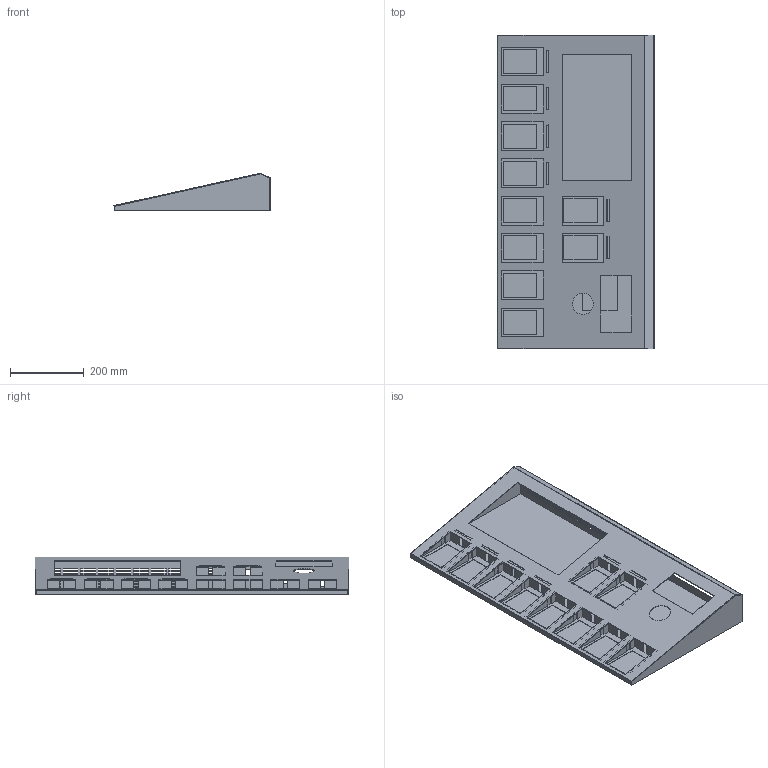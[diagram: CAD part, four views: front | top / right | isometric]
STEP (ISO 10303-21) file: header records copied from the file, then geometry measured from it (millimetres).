
FILE_DESCRIPTION(('Open CASCADE Model'),'2;1');
FILE_NAME('Open CASCADE Shape Model','2026-07-28T21:42:38',('Author'),( 'Open CASCADE'),'Open CASCADE STEP processor 7.9','Open CASCADE 7.9' ,'Unknown');
FILE_SCHEMA(('AUTOMOTIVE_DESIGN { 1 0 10303 214 1 1 1 1 }'));
Length unit declared in the file: millimetre
Products named in the file (23): Segno; bottom; front; rear; side_L; side_R; transition; faceplate; platform_0; platform_1; platform_2; platform_3; platform_4; platform_5; platform_6; platform_7; platform_8; platform_9; main_board; main_board_standoff_u107_d230; main_board_standoff_u107_d317; main_board_standoff_u192_d230; main_board_standoff_u192_d317
Assembly tree (22 placements, depth 2):
  Segno
    bottom
    front
    rear
    side_L
    side_R
    transition
    faceplate
    platform_0
    platform_1
    platform_2
    platform_3
    platform_4
    platform_5
    platform_6
    platform_7
    platform_8
    platform_9
    main_board
    main_board_standoff_u107_d230
    main_board_standoff_u107_d317
    main_board_standoff_u192_d230
    main_board_standoff_u192_d317
Bounding box: 423.43 x 850 x 101.95 mm (x, y, z)
Volume: 2575831.9 mm3; surface area: 1826630.2 mm2
Topology: 22 solids, 22 shells, 812 faces, 2120 edges, 1402 vertices
Faces by surface type: plane 750, cylinder 62
Full cylindrical faces by diameter (mm): 3.2 x4, 4.5 x40, 5.5 x4, 6.5 x1, 12 x4, 58 x1
Entity records: 50842 total; most frequent: CARTESIAN_POINT 10585, DIRECTION 6208, ORIENTED_EDGE 4248, PCURVE 4232, DEFINITIONAL_REPRESENTATION 4232, LINE 4178, VECTOR 4178, EDGE_CURVE 2116
